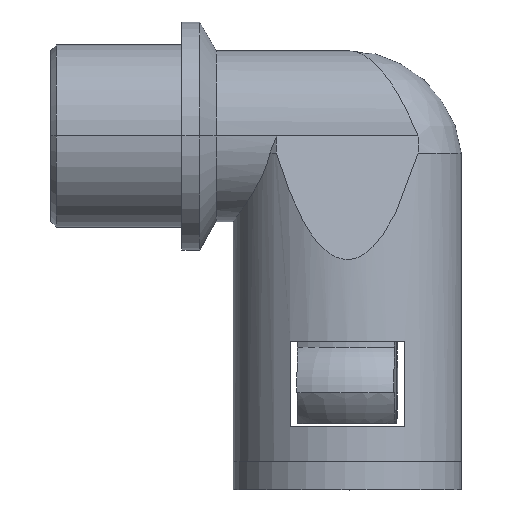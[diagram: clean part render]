
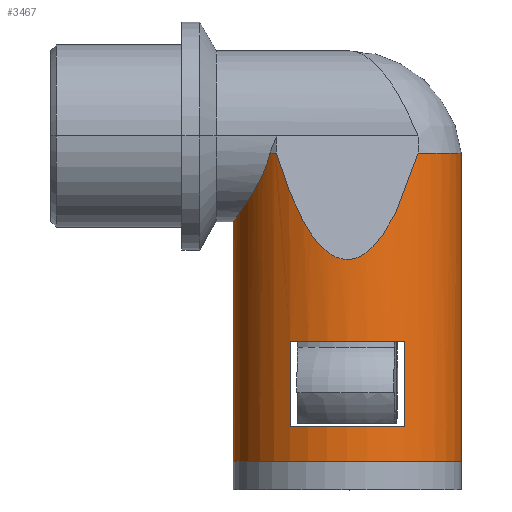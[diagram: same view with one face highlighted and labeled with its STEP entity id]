
A CAD part, top view. The second image highlights one B-rep face of the part: STEP entity #3467.
In plain terms, the highlighted cylindrical face has radius 10 mm (diameter 20 mm), a partial arc.
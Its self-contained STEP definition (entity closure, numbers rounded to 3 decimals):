
#9 = CIRCLE ( 'NONE', #2512, 10. ) ;
#112 = DIRECTION ( 'NONE',  ( -1., 0., 0. ) ) ;
#242 = EDGE_CURVE ( 'NONE', #2774, #2585, #4255, .T. ) ;
#244 = CARTESIAN_POINT ( 'NONE',  ( -9.992, 21.01, 0.454 ) ) ;
#250 = AXIS2_PLACEMENT_3D ( 'NONE', #1498, #4139, #491 ) ;
#280 = CARTESIAN_POINT ( 'NONE',  ( 5., 3., 8.66 ) ) ;
#284 = AXIS2_PLACEMENT_3D ( 'NONE', #3951, #3966, #2323 ) ;
#348 = ORIENTED_EDGE ( 'NONE', *, *, #242, .F. ) ;
#405 = VERTEX_POINT ( 'NONE', #3933 ) ;
#411 = LINE ( 'NONE', #3904, #2387 ) ;
#432 = EDGE_CURVE ( 'NONE', #1647, #3778, #1558, .T. ) ;
#442 = CARTESIAN_POINT ( 'NONE',  ( -8.938, 22.485, 4.5 ) ) ;
#491 = DIRECTION ( 'NONE',  ( -1., 0., 0. ) ) ;
#534 = DIRECTION ( 'NONE',  ( -1., 0., 0. ) ) ;
#559 = ORIENTED_EDGE ( 'NONE', *, *, #3081, .F. ) ;
#598 = EDGE_CURVE ( 'NONE', #1647, #2046, #3950, .T. ) ;
#627 = FACE_BOUND ( 'NONE', #4132, .T. ) ;
#712 = CARTESIAN_POINT ( 'NONE',  ( 10., 27., 0. ) ) ;
#736 = VECTOR ( 'NONE', #1490, 1000. ) ;
#739 = CARTESIAN_POINT ( 'NONE',  ( -10., 0., 0. ) ) ;
#743 =( BOUNDED_CURVE ( )  B_SPLINE_CURVE ( 3, ( #2029, #1049, #2669, #4026 ),
 .UNSPECIFIED., .F., .F. ) 
 B_SPLINE_CURVE_WITH_KNOTS ( ( 4, 4 ),
 ( 2.473, 3.81 ),
 .UNSPECIFIED. ) 
 CURVE ( )  GEOMETRIC_REPRESENTATION_ITEM ( )  RATIONAL_B_SPLINE_CURVE ( ( 1., 0.856, 0.856, 1. ) ) 
 REPRESENTATION_ITEM ( '' )  );
#780 = CARTESIAN_POINT ( 'NONE',  ( -9.103, 22.244, 4.159 ) ) ;
#825 = ORIENTED_EDGE ( 'NONE', *, *, #432, .T. ) ;
#938 = VECTOR ( 'NONE', #2588, 1000. ) ;
#964 = CARTESIAN_POINT ( 'NONE',  ( -6.879, 26.562, 7.259 ) ) ;
#993 = ORIENTED_EDGE ( 'NONE', *, *, #3560, .T. ) ;
#994 = FACE_OUTER_BOUND ( 'NONE', #1173, .T. ) ;
#1049 = CARTESIAN_POINT ( 'NONE',  ( 2.413, 14.04, 10.838 ) ) ;
#1122 = CARTESIAN_POINT ( 'NONE',  ( -9.401, 21.818, 3.432 ) ) ;
#1125 = CARTESIAN_POINT ( 'NONE',  ( 6.2, 27., 7.846 ) ) ;
#1144 = VERTEX_POINT ( 'NONE', #2291 ) ;
#1170 = CIRCLE ( 'NONE', #2389, 10. ) ;
#1173 = EDGE_LOOP ( 'NONE', ( #993, #2947, #348, #3359, #1295, #825, #559 ) ) ;
#1295 = ORIENTED_EDGE ( 'NONE', *, *, #598, .F. ) ;
#1343 = CARTESIAN_POINT ( 'NONE',  ( -5., 10.5, 8.66 ) ) ;
#1406 = CARTESIAN_POINT ( 'NONE',  ( -7.483, 24.987, 6.64 ) ) ;
#1447 = EDGE_CURVE ( 'NONE', #2774, #2046, #743, .T. ) ;
#1480 = EDGE_CURVE ( 'NONE', #2914, #2476, #3294, .T. ) ;
#1490 = DIRECTION ( 'NONE',  ( 0., 1., 0. ) ) ;
#1498 = CARTESIAN_POINT ( 'NONE',  ( 0., 27., 0. ) ) ;
#1522 = CARTESIAN_POINT ( 'NONE',  ( 0., 27., 0. ) ) ;
#1536 = ORIENTED_EDGE ( 'NONE', *, *, #1979, .T. ) ;
#1558 = B_SPLINE_CURVE_WITH_KNOTS ( 'NONE', 3,
 ( #4275, #964, #3065, #2740, #1406, #4044, #2061, #3710, #2115, #2783, #3452, #442, #780, #1122, #1972, #1927, #3547, #3876, #2281, #244, #3492, #1922 ),
 .UNSPECIFIED., .F., .F.,
 ( 4, 2, 2, 2, 2, 2, 2, 2, 2, 2, 4 ),
 ( 0., 0.001, 0.003, 0.004, 0.005, 0.005, 0.007, 0.008, 0.009, 0.01, 0.011 ),
 .UNSPECIFIED. ) ;
#1647 = VERTEX_POINT ( 'NONE', #2650 ) ;
#1685 = ORIENTED_EDGE ( 'NONE', *, *, #2822, .T. ) ;
#1922 = CARTESIAN_POINT ( 'NONE',  ( -10., 21., 0. ) ) ;
#1927 = CARTESIAN_POINT ( 'NONE',  ( -9.76, 21.322, 2.218 ) ) ;
#1946 = DIRECTION ( 'NONE',  ( 0., 0., 1. ) ) ;
#1965 = VERTEX_POINT ( 'NONE', #280 ) ;
#1972 = CARTESIAN_POINT ( 'NONE',  ( -9.535, 21.632, 3.045 ) ) ;
#1979 = EDGE_CURVE ( 'NONE', #2476, #405, #1170, .T. ) ;
#2029 = CARTESIAN_POINT ( 'NONE',  ( 6.2, 27., 7.846 ) ) ;
#2046 = VERTEX_POINT ( 'NONE', #3970 ) ;
#2061 = CARTESIAN_POINT ( 'NONE',  ( -8.03, 23.94, 5.968 ) ) ;
#2089 = CIRCLE ( 'NONE', #3290, 10. ) ;
#2115 = CARTESIAN_POINT ( 'NONE',  ( -8.4, 23.32, 5.428 ) ) ;
#2136 = CYLINDRICAL_SURFACE ( 'NONE', #284, 10. ) ;
#2216 = CARTESIAN_POINT ( 'NONE',  ( -5., 27., 8.66 ) ) ;
#2281 = CARTESIAN_POINT ( 'NONE',  ( -9.961, 21.052, 0.907 ) ) ;
#2291 = CARTESIAN_POINT ( 'NONE',  ( 10., 0., 0. ) ) ;
#2323 = DIRECTION ( 'NONE',  ( -1., 0., 0. ) ) ;
#2387 = VECTOR ( 'NONE', #3260, 1000. ) ;
#2389 = AXIS2_PLACEMENT_3D ( 'NONE', #2941, #3919, #1946 ) ;
#2476 = VERTEX_POINT ( 'NONE', #1343 ) ;
#2512 = AXIS2_PLACEMENT_3D ( 'NONE', #3725, #3101, #112 ) ;
#2585 = VERTEX_POINT ( 'NONE', #712 ) ;
#2588 = DIRECTION ( 'NONE',  ( 0., 1., 0. ) ) ;
#2650 = CARTESIAN_POINT ( 'NONE',  ( -6.782, 27., 7.348 ) ) ;
#2669 = CARTESIAN_POINT ( 'NONE',  ( -2.413, 14.04, 10.838 ) ) ;
#2687 = AXIS2_PLACEMENT_3D ( 'NONE', #1522, #2813, #534 ) ;
#2688 = CARTESIAN_POINT ( 'NONE',  ( 0., 3., 0. ) ) ;
#2706 = CARTESIAN_POINT ( 'NONE',  ( -5., 3., 8.66 ) ) ;
#2708 = ORIENTED_EDGE ( 'NONE', *, *, #4020, .T. ) ;
#2740 = CARTESIAN_POINT ( 'NONE',  ( -7.312, 25.363, 6.825 ) ) ;
#2758 = VERTEX_POINT ( 'NONE', #739 ) ;
#2774 = VERTEX_POINT ( 'NONE', #1125 ) ;
#2783 = CARTESIAN_POINT ( 'NONE',  ( -8.583, 23.029, 5.134 ) ) ;
#2813 = DIRECTION ( 'NONE',  ( 0., 1., 0. ) ) ;
#2822 = EDGE_CURVE ( 'NONE', #1965, #2914, #2089, .T. ) ;
#2914 = VERTEX_POINT ( 'NONE', #2706 ) ;
#2941 = CARTESIAN_POINT ( 'NONE',  ( 0., 10.5, 0. ) ) ;
#2947 = ORIENTED_EDGE ( 'NONE', *, *, #3957, .T. ) ;
#3015 = LINE ( 'NONE', #3584, #938 ) ;
#3065 = CARTESIAN_POINT ( 'NONE',  ( -7.01, 26.15, 7.135 ) ) ;
#3081 = EDGE_CURVE ( 'NONE', #2758, #3778, #4106, .T. ) ;
#3101 = DIRECTION ( 'NONE',  ( 0., 1., 0. ) ) ;
#3156 = CARTESIAN_POINT ( 'NONE',  ( -10., 27., 0. ) ) ;
#3180 = CARTESIAN_POINT ( 'NONE',  ( -10., 21., 0. ) ) ;
#3211 = DIRECTION ( 'NONE',  ( 0., 1., 0. ) ) ;
#3260 = DIRECTION ( 'NONE',  ( 0., -1., 0. ) ) ;
#3290 = AXIS2_PLACEMENT_3D ( 'NONE', #2688, #3654, #3677 ) ;
#3294 = LINE ( 'NONE', #2216, #3961 ) ;
#3359 = ORIENTED_EDGE ( 'NONE', *, *, #1447, .T. ) ;
#3452 = CARTESIAN_POINT ( 'NONE',  ( -8.674, 22.887, 4.979 ) ) ;
#3467 = ADVANCED_FACE ( 'NONE', ( #627, #994 ), #2136, .T. ) ;
#3492 = CARTESIAN_POINT ( 'NONE',  ( -10., 21., 0.226 ) ) ;
#3512 = ORIENTED_EDGE ( 'NONE', *, *, #1480, .T. ) ;
#3547 = CARTESIAN_POINT ( 'NONE',  ( -9.849, 21.203, 1.789 ) ) ;
#3560 = EDGE_CURVE ( 'NONE', #2758, #1144, #9, .T. ) ;
#3584 = CARTESIAN_POINT ( 'NONE',  ( 10., 27., 0. ) ) ;
#3654 = DIRECTION ( 'NONE',  ( 0., -1., 0. ) ) ;
#3677 = DIRECTION ( 'NONE',  ( 1., 0., 0. ) ) ;
#3710 = CARTESIAN_POINT ( 'NONE',  ( -8.308, 23.471, 5.568 ) ) ;
#3725 = CARTESIAN_POINT ( 'NONE',  ( 0., 0., 0. ) ) ;
#3778 = VERTEX_POINT ( 'NONE', #3180 ) ;
#3876 = CARTESIAN_POINT ( 'NONE',  ( -9.938, 21.082, 1.13 ) ) ;
#3904 = CARTESIAN_POINT ( 'NONE',  ( 5., 27., 8.66 ) ) ;
#3919 = DIRECTION ( 'NONE',  ( 0., 1., 0. ) ) ;
#3933 = CARTESIAN_POINT ( 'NONE',  ( 5., 10.5, 8.66 ) ) ;
#3950 = CIRCLE ( 'NONE', #250, 10. ) ;
#3951 = CARTESIAN_POINT ( 'NONE',  ( 0., 27., 0. ) ) ;
#3957 = EDGE_CURVE ( 'NONE', #1144, #2585, #3015, .T. ) ;
#3961 = VECTOR ( 'NONE', #3211, 1000. ) ;
#3966 = DIRECTION ( 'NONE',  ( 0., 1., 0. ) ) ;
#3970 = CARTESIAN_POINT ( 'NONE',  ( -6.2, 27., 7.846 ) ) ;
#4020 = EDGE_CURVE ( 'NONE', #405, #1965, #411, .T. ) ;
#4026 = CARTESIAN_POINT ( 'NONE',  ( -6.2, 27., 7.846 ) ) ;
#4044 = CARTESIAN_POINT ( 'NONE',  ( -7.844, 24.273, 6.209 ) ) ;
#4106 = LINE ( 'NONE', #3156, #736 ) ;
#4132 = EDGE_LOOP ( 'NONE', ( #1536, #2708, #1685, #3512 ) ) ;
#4139 = DIRECTION ( 'NONE',  ( 0., 1., 0. ) ) ;
#4255 = CIRCLE ( 'NONE', #2687, 10. ) ;
#4275 = CARTESIAN_POINT ( 'NONE',  ( -6.782, 27., 7.348 ) ) ;
